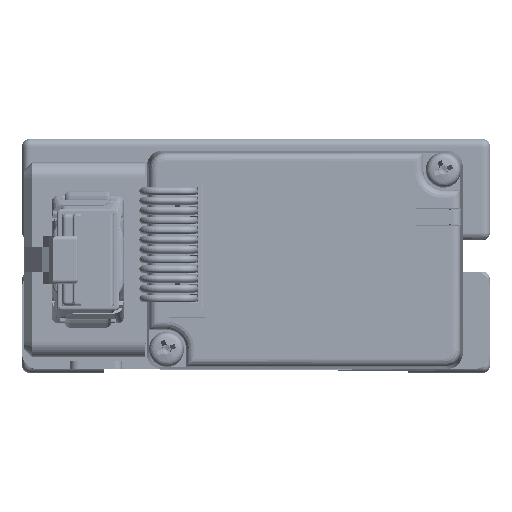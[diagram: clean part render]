
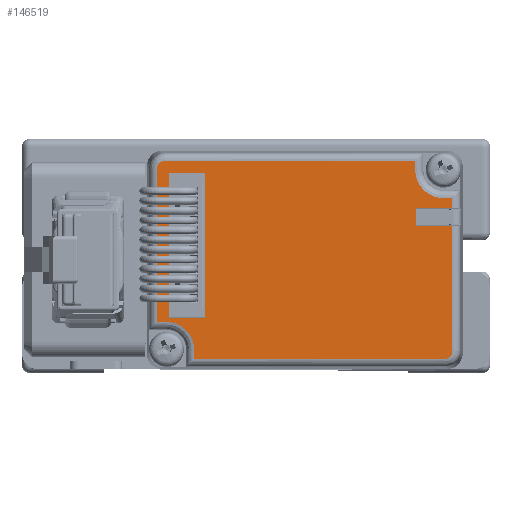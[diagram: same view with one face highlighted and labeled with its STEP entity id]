
A CAD part, front view. The second image highlights one B-rep face of the part: STEP entity #146519.
In plain terms, the highlighted planar face has unit normal (0, -1, 0) as drawn and (1, 0, 0) by its records, which use the part's own axes.
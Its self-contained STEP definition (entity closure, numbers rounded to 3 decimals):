
#698=(
BOUNDED_CURVE()
B_SPLINE_CURVE(3,(#289793,#289794,#289795,#289796),.UNSPECIFIED.,.F.,.F.)
B_SPLINE_CURVE_WITH_KNOTS((4,4),(2.357,3.927),
 .UNSPECIFIED.)
CURVE()
GEOMETRIC_REPRESENTATION_ITEM()
RATIONAL_B_SPLINE_CURVE((1.,0.805,0.805,1.))
REPRESENTATION_ITEM('')
);
#699=(
BOUNDED_CURVE()
B_SPLINE_CURVE(3,(#289902,#289903,#289904,#289905),.UNSPECIFIED.,.F.,.F.)
B_SPLINE_CURVE_WITH_KNOTS((4,4),(2.357,3.927),
 .UNSPECIFIED.)
CURVE()
GEOMETRIC_REPRESENTATION_ITEM()
RATIONAL_B_SPLINE_CURVE((1.,0.805,0.805,1.))
REPRESENTATION_ITEM('')
);
#12858=LINE('',#289690,#29784);
#12860=LINE('',#289740,#29786);
#12862=LINE('',#289746,#29788);
#12864=LINE('',#289802,#29790);
#12866=LINE('',#289808,#29792);
#12868=LINE('',#289849,#29794);
#12870=LINE('',#289855,#29796);
#12872=LINE('',#289911,#29798);
#12874=LINE('',#289920,#29800);
#12946=LINE('',#290181,#29872);
#12952=LINE('',#290191,#29878);
#12956=LINE('',#290199,#29882);
#12959=LINE('',#290205,#29885);
#12962=LINE('',#290211,#29888);
#12965=LINE('',#290217,#29891);
#12968=LINE('',#290223,#29894);
#29784=VECTOR('',#212106,1000.);
#29786=VECTOR('',#212116,1000.);
#29788=VECTOR('',#212122,1000.);
#29790=VECTOR('',#212130,1000.);
#29792=VECTOR('',#212136,1000.);
#29794=VECTOR('',#212148,1000.);
#29796=VECTOR('',#212154,1000.);
#29798=VECTOR('',#212162,1000.);
#29800=VECTOR('',#212166,1000.);
#29872=VECTOR('',#212300,1000.);
#29878=VECTOR('',#212308,1000.);
#29882=VECTOR('',#212314,1000.);
#29885=VECTOR('',#212319,1000.);
#29888=VECTOR('',#212324,1000.);
#29891=VECTOR('',#212329,1000.);
#29894=VECTOR('',#212334,1000.);
#39949=PLANE('',#186717);
#67715=ORIENTED_EDGE('',*,*,#97849,.F.);
#67716=ORIENTED_EDGE('',*,*,#97846,.F.);
#67717=ORIENTED_EDGE('',*,*,#97843,.F.);
#67718=ORIENTED_EDGE('',*,*,#97840,.F.);
#67719=ORIENTED_EDGE('',*,*,#97698,.T.);
#67720=ORIENTED_EDGE('',*,*,#97695,.T.);
#67721=ORIENTED_EDGE('',*,*,#97827,.F.);
#67722=ORIENTED_EDGE('',*,*,#97837,.F.);
#67723=ORIENTED_EDGE('',*,*,#97833,.F.);
#67724=ORIENTED_EDGE('',*,*,#97732,.T.);
#67725=ORIENTED_EDGE('',*,*,#97729,.T.);
#67726=ORIENTED_EDGE('',*,*,#97726,.T.);
#67727=ORIENTED_EDGE('',*,*,#97723,.T.);
#67728=ORIENTED_EDGE('',*,*,#97720,.T.);
#67729=ORIENTED_EDGE('',*,*,#97896,.T.);
#67730=ORIENTED_EDGE('',*,*,#97716,.T.);
#67731=ORIENTED_EDGE('',*,*,#97713,.T.);
#67732=ORIENTED_EDGE('',*,*,#97710,.T.);
#67733=ORIENTED_EDGE('',*,*,#97707,.T.);
#67734=ORIENTED_EDGE('',*,*,#97704,.T.);
#67735=ORIENTED_EDGE('',*,*,#97701,.T.);
#97695=EDGE_CURVE('',#114856,#114859,#12858,.T.);
#97698=EDGE_CURVE('',#114860,#114856,#121890,.T.);
#97701=EDGE_CURVE('',#114862,#114860,#12860,.T.);
#97704=EDGE_CURVE('',#114864,#114862,#12862,.T.);
#97707=EDGE_CURVE('',#114866,#114864,#698,.T.);
#97710=EDGE_CURVE('',#114868,#114866,#12864,.T.);
#97713=EDGE_CURVE('',#114870,#114868,#12866,.T.);
#97716=EDGE_CURVE('',#114873,#114870,#121895,.T.);
#97720=EDGE_CURVE('',#114874,#114877,#12868,.T.);
#97723=EDGE_CURVE('',#114878,#114874,#12870,.T.);
#97726=EDGE_CURVE('',#114880,#114878,#699,.T.);
#97729=EDGE_CURVE('',#114882,#114880,#12872,.T.);
#97732=EDGE_CURVE('',#114885,#114882,#12874,.T.);
#97827=EDGE_CURVE('',#114960,#114859,#12946,.T.);
#97833=EDGE_CURVE('',#114885,#114963,#12952,.T.);
#97837=EDGE_CURVE('',#114963,#114960,#12956,.T.);
#97840=EDGE_CURVE('',#114967,#114968,#12959,.T.);
#97843=EDGE_CURVE('',#114968,#114970,#12962,.T.);
#97846=EDGE_CURVE('',#114970,#114972,#12965,.T.);
#97849=EDGE_CURVE('',#114972,#114967,#12968,.T.);
#97896=EDGE_CURVE('',#114877,#114873,#121903,.T.);
#114856=VERTEX_POINT('',#289681);
#114859=VERTEX_POINT('',#289689);
#114860=VERTEX_POINT('',#289728);
#114862=VERTEX_POINT('',#289737);
#114864=VERTEX_POINT('',#289743);
#114866=VERTEX_POINT('',#289784);
#114868=VERTEX_POINT('',#289799);
#114870=VERTEX_POINT('',#289805);
#114873=VERTEX_POINT('',#289835);
#114874=VERTEX_POINT('',#289843);
#114877=VERTEX_POINT('',#289848);
#114878=VERTEX_POINT('',#289852);
#114880=VERTEX_POINT('',#289893);
#114882=VERTEX_POINT('',#289908);
#114885=VERTEX_POINT('',#289918);
#114960=VERTEX_POINT('',#290182);
#114963=VERTEX_POINT('',#290192);
#114967=VERTEX_POINT('',#290204);
#114968=VERTEX_POINT('',#290206);
#114970=VERTEX_POINT('',#290212);
#114972=VERTEX_POINT('',#290218);
#121890=CIRCLE('',#186643,1.);
#121895=CIRCLE('',#186654,1.);
#121903=CIRCLE('',#186718,1.);
#128305=EDGE_LOOP('',(#67715,#67716,#67717,#67718));
#128306=EDGE_LOOP('',(#67719,#67720,#67721,#67722,#67723,#67724,#67725,
#67726,#67727,#67728,#67729,#67730,#67731,#67732,#67733,#67734,#67735));
#136863=FACE_BOUND('',#128305,.T.);
#136864=FACE_BOUND('',#128306,.T.);
#146519=ADVANCED_FACE('',(#136863,#136864),#39949,.T.);
#186643=AXIS2_PLACEMENT_3D('',#289734,#212109,#212110);
#186654=AXIS2_PLACEMENT_3D('',#289840,#212139,#212140);
#186717=AXIS2_PLACEMENT_3D('',#290305,#212411,#212412);
#186718=AXIS2_PLACEMENT_3D('',#290306,#212413,#212414);
#212106=DIRECTION('',(0.,0.,1.));
#212109=DIRECTION('',(1.,0.,0.));
#212110=DIRECTION('',(0.,0.,-1.));
#212116=DIRECTION('',(0.,1.,0.));
#212122=DIRECTION('',(0.,0.,-1.));
#212130=DIRECTION('',(0.,1.,0.));
#212136=DIRECTION('',(0.,0.,-1.));
#212139=DIRECTION('',(1.,0.,0.));
#212140=DIRECTION('',(0.,-0.707,0.707));
#212148=DIRECTION('',(0.,-1.,0.));
#212154=DIRECTION('',(0.,0.,1.));
#212162=DIRECTION('',(0.,-1.,0.));
#212166=DIRECTION('',(0.,0.,1.));
#212300=DIRECTION('',(0.,1.,0.));
#212308=DIRECTION('',(0.,-1.,0.));
#212314=DIRECTION('',(0.,0.,-1.));
#212319=DIRECTION('',(0.,0.,-1.));
#212324=DIRECTION('',(0.,1.,0.));
#212329=DIRECTION('',(0.,0.,1.));
#212334=DIRECTION('',(0.,-1.,0.));
#212411=DIRECTION('',(1.,0.,0.));
#212412=DIRECTION('',(0.,0.,-1.));
#212413=DIRECTION('',(1.,0.,0.));
#212414=DIRECTION('',(0.,0.,1.));
#289681=CARTESIAN_POINT('',(13.,39.185,-25.686));
#289689=CARTESIAN_POINT('',(13.,39.185,-9.6));
#289690=CARTESIAN_POINT('',(13.,39.185,-9.6));
#289728=CARTESIAN_POINT('',(13.,38.186,-26.685));
#289734=CARTESIAN_POINT('',(13.,38.186,-25.686));
#289737=CARTESIAN_POINT('',(13.,6.074,-26.685));
#289740=CARTESIAN_POINT('',(13.,38.16,-26.685));
#289743=CARTESIAN_POINT('',(13.,6.074,-25.525));
#289746=CARTESIAN_POINT('',(13.,6.074,-27.66));
#289784=CARTESIAN_POINT('',(13.,2.475,-21.926));
#289793=CARTESIAN_POINT('',(13.,2.475,-21.926));
#289794=CARTESIAN_POINT('',(13.,4.584,-21.926));
#289795=CARTESIAN_POINT('',(13.,6.074,-23.416));
#289796=CARTESIAN_POINT('',(13.,6.074,-25.525));
#289799=CARTESIAN_POINT('',(13.,1.315,-21.926));
#289802=CARTESIAN_POINT('',(13.,2.501,-21.926));
#289805=CARTESIAN_POINT('',(13.,1.315,-2.314));
#289808=CARTESIAN_POINT('',(13.,1.315,-22.9));
#289835=CARTESIAN_POINT('',(13.,1.607,-1.607));
#289840=CARTESIAN_POINT('',(13.,2.314,-2.314));
#289843=CARTESIAN_POINT('',(13.,34.426,-1.315));
#289848=CARTESIAN_POINT('',(13.,2.314,-1.315));
#289849=CARTESIAN_POINT('',(13.,0.,-1.315));
#289852=CARTESIAN_POINT('',(13.,34.426,-2.475));
#289855=CARTESIAN_POINT('',(13.,34.426,-0.34));
#289893=CARTESIAN_POINT('',(13.,38.025,-6.074));
#289902=CARTESIAN_POINT('',(13.,38.025,-6.074));
#289903=CARTESIAN_POINT('',(13.,35.916,-6.074));
#289904=CARTESIAN_POINT('',(13.,34.426,-4.584));
#289905=CARTESIAN_POINT('',(13.,34.426,-2.475));
#289908=CARTESIAN_POINT('',(13.,39.185,-6.074));
#289911=CARTESIAN_POINT('',(13.,37.999,-6.074));
#289918=CARTESIAN_POINT('',(13.,39.185,-7.4));
#289920=CARTESIAN_POINT('',(13.,39.185,-5.1));
#290181=CARTESIAN_POINT('',(13.,40.5,-9.6));
#290182=CARTESIAN_POINT('',(13.,34.5,-9.6));
#290191=CARTESIAN_POINT('',(13.,40.5,-7.4));
#290192=CARTESIAN_POINT('',(13.,34.5,-7.4));
#290199=CARTESIAN_POINT('',(13.,34.5,-7.4));
#290204=CARTESIAN_POINT('',(13.,2.8,-2.8));
#290205=CARTESIAN_POINT('',(13.,2.8,-2.8));
#290206=CARTESIAN_POINT('',(13.,2.8,-21.4));
#290211=CARTESIAN_POINT('',(13.,7.5,-21.4));
#290212=CARTESIAN_POINT('',(13.,7.5,-21.4));
#290217=CARTESIAN_POINT('',(13.,7.5,-2.8));
#290218=CARTESIAN_POINT('',(13.,7.5,-2.8));
#290223=CARTESIAN_POINT('',(13.,7.5,-2.8));
#290305=CARTESIAN_POINT('',(13.,0.,0.));
#290306=CARTESIAN_POINT('',(13.,2.314,-2.314));
